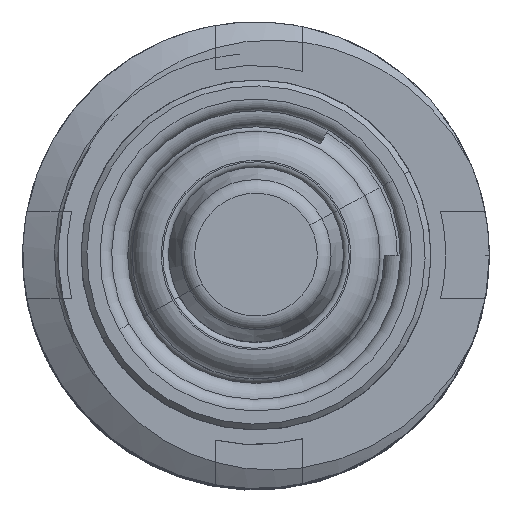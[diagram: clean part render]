
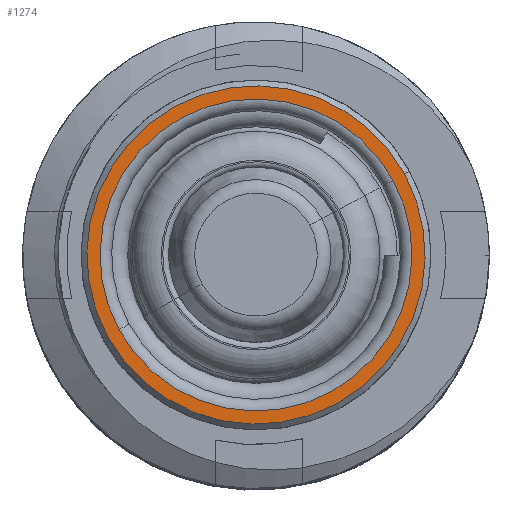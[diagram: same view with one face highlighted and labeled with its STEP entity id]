
A CAD part, top view. The second image highlights one B-rep face of the part: STEP entity #1274.
In plain terms, the highlighted planar face has unit normal (0, 0, 1).
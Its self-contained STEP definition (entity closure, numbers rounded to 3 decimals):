
#1127 = VERTEX_POINT('',#1128);
#1128 = CARTESIAN_POINT('',(-4.695,-2.565,48.5));
#1137 = VERTEX_POINT('',#1138);
#1138 = CARTESIAN_POINT('',(4.695,2.565,48.5));
#1145 = EDGE_CURVE('',#1137,#1127,#1146,.T.);
#1146 = CIRCLE('',#1147,5.35);
#1147 = AXIS2_PLACEMENT_3D('',#1148,#1149,#1150);
#1148 = CARTESIAN_POINT('',(0.,0.,48.5));
#1149 = DIRECTION('',(0.,0.,1.));
#1150 = DIRECTION('',(1.,0.,-0.));
#1163 = EDGE_CURVE('',#1127,#1137,#1164,.T.);
#1164 = CIRCLE('',#1165,5.35);
#1165 = AXIS2_PLACEMENT_3D('',#1166,#1167,#1168);
#1166 = CARTESIAN_POINT('',(0.,0.,48.5));
#1167 = DIRECTION('',(0.,0.,1.));
#1168 = DIRECTION('',(1.,0.,-0.));
#1179 = VERTEX_POINT('',#1180);
#1180 = CARTESIAN_POINT('',(-5.09,-2.781,48.5));
#1188 = EDGE_CURVE('',#1179,#1189,#1191,.T.);
#1189 = VERTEX_POINT('',#1190);
#1190 = CARTESIAN_POINT('',(5.09,2.781,48.5));
#1191 = CIRCLE('',#1192,5.8);
#1192 = AXIS2_PLACEMENT_3D('',#1193,#1194,#1195);
#1193 = CARTESIAN_POINT('',(0.,0.,48.5));
#1194 = DIRECTION('',(0.,0.,-1.));
#1195 = DIRECTION('',(-1.,0.,-0.));
#1221 = EDGE_CURVE('',#1189,#1179,#1222,.T.);
#1222 = CIRCLE('',#1223,5.8);
#1223 = AXIS2_PLACEMENT_3D('',#1224,#1225,#1226);
#1224 = CARTESIAN_POINT('',(0.,0.,48.5));
#1225 = DIRECTION('',(0.,0.,-1.));
#1226 = DIRECTION('',(-1.,0.,-0.));
#1274 = ADVANCED_FACE('',(#1275,#1279),#1283,.T.);
#1275 = FACE_BOUND('',#1276,.T.);
#1276 = EDGE_LOOP('',(#1277,#1278));
#1277 = ORIENTED_EDGE('',*,*,#1221,.F.);
#1278 = ORIENTED_EDGE('',*,*,#1188,.F.);
#1279 = FACE_BOUND('',#1280,.T.);
#1280 = EDGE_LOOP('',(#1281,#1282));
#1281 = ORIENTED_EDGE('',*,*,#1145,.F.);
#1282 = ORIENTED_EDGE('',*,*,#1163,.F.);
#1283 = PLANE('',#1284);
#1284 = AXIS2_PLACEMENT_3D('',#1285,#1286,#1287);
#1285 = CARTESIAN_POINT('',(5.8,0.,48.5));
#1286 = DIRECTION('',(0.,0.,1.));
#1287 = DIRECTION('',(1.,0.,-0.));
